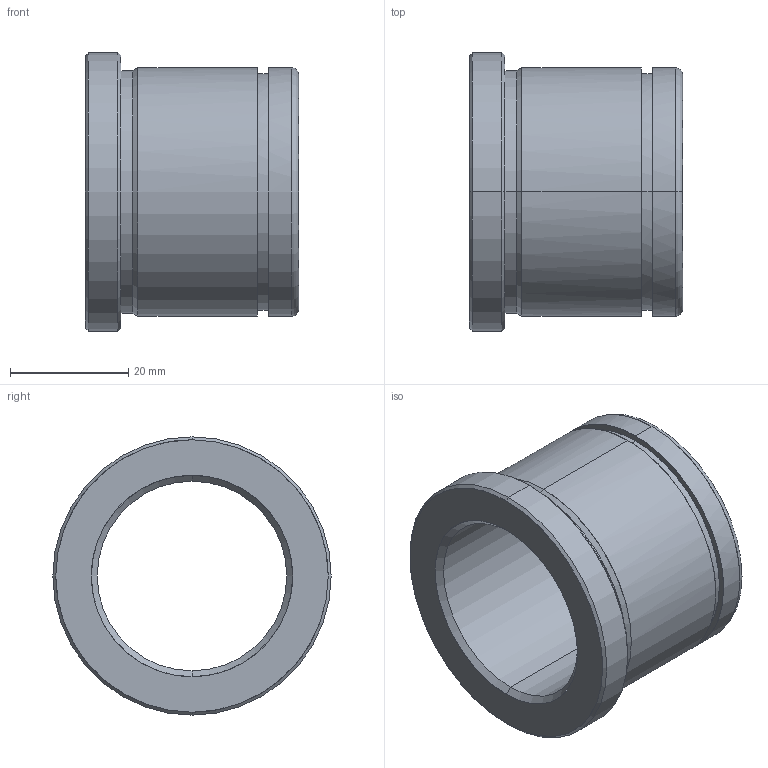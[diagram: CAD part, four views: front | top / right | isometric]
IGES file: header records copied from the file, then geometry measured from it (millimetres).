
Start section: START RECORD GO HERE.
Global section: file name: 553-32X36.igs; native system: DASSAULT SYSTEMES CATIA V5 R20 - www.3ds.com; preprocessor: CATIA Version 5 Release 20 ; author: Utente; organization: NB04-ASUS; date: 20210526.204737; units: millimetre
Bounding box: 36 x 47 x 47 mm (x, y, z)
Surface area: 10327.4 mm2 (no closed solid volume)
Topology: 0 solids, 0 shells, 29 faces, 184 edges, 184 vertices
Faces by surface type: revolution 24, plane 5
